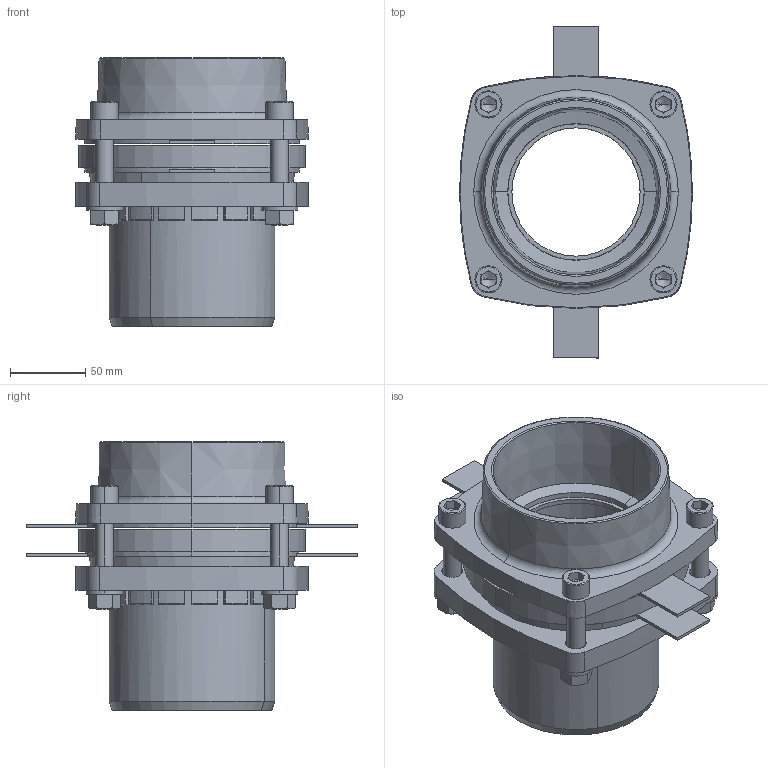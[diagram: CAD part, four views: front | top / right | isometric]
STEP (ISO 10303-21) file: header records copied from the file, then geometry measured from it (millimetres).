
FILE_DESCRIPTION (( 'STEP AP203' ), '1' );
FILE_NAME ('KP_C13-110F.step', '2011-08-08T12:01:48', ( '' ), ( '' ), 'SwSTEP 2.0', 'SolidWorks 2011', '' );
FILE_SCHEMA (( 'CONFIG_CONTROL_DESIGN' ));
Length unit declared in the file: millimetre
Products named in the file (1): KP_C13-110F
Bounding box: 154.3 x 220 x 178 mm (x, y, z)
Volume: 1117835.9 mm3; surface area: 240505.9 mm2
Topology: 1 solids, 1 shells, 484 faces, 1173 edges, 718 vertices
Faces by surface type: plane 225, cone 112, cylinder 106, torus 41
Entity records: 14361 total; most frequent: CARTESIAN_POINT 2640, DIRECTION 2634, ORIENTED_EDGE 2330, EDGE_CURVE 1165, AXIS2_PLACEMENT_3D 1032, VERTEX_POINT 718, VECTOR 570, LINE 570
